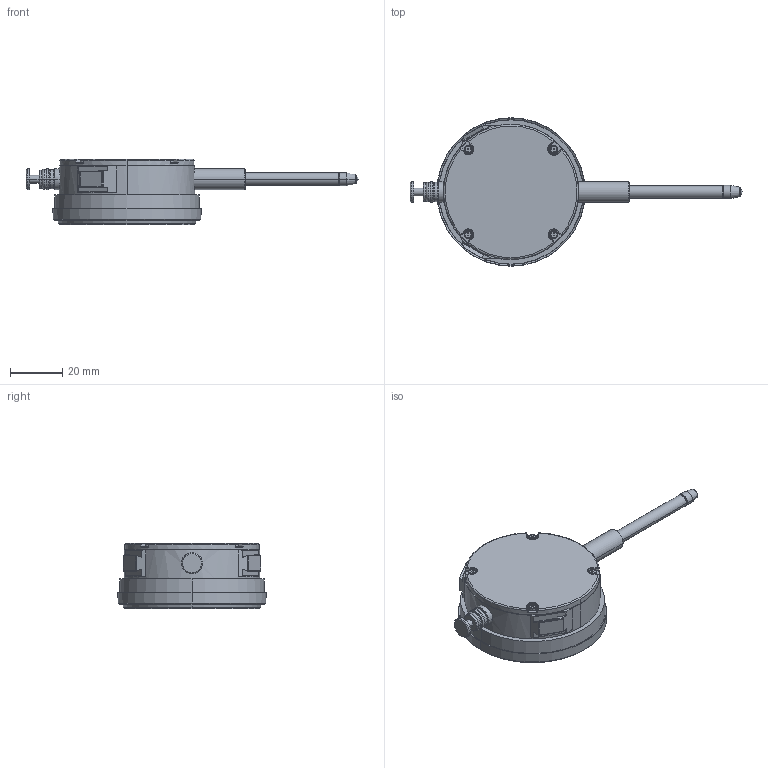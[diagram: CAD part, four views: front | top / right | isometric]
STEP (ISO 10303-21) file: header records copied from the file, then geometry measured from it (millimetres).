
FILE_DESCRIPTION(('Creo Elements/Direct Modeling STEP Export'),'2;1');
FILE_NAME('2330SB-10.stp','2020-03-23T10:51:43',(''),(''),'Creo Elements/Direct Modeling STEP processor for AP214 (Solid Model)','Creo Elements/Direct Modeling 18.1I 13-Aug-2016 (C) Parametric Technology GmbH','');
FILE_SCHEMA(('AUTOMOTIVE_DESIGN { 1 0 10303 214 1 1 1 1 }'));
Length unit declared in the file: millimetre
Products named in the file (2): 2330SB-10
Assembly tree (1 placements, depth 2):
  2330SB-10
    2330SB-10
Bounding box: 127.5 x 56.99 x 25.03 mm (x, y, z)
Volume: 58924.1 mm3; surface area: 11069.3 mm2
Topology: 1 solids, 1 shells, 301 faces, 720 edges, 443 vertices
Faces by surface type: plane 120, cylinder 79, cone 40, bspline 32, torus 28, sphere 2
Entity records: 13565 total; most frequent: CARTESIAN_POINT 7050, ORIENTED_EDGE 1436, DIRECTION 1228, EDGE_CURVE 718, VERTEX_POINT 443, AXIS2_PLACEMENT_3D 433, VECTOR 362, LINE 362
